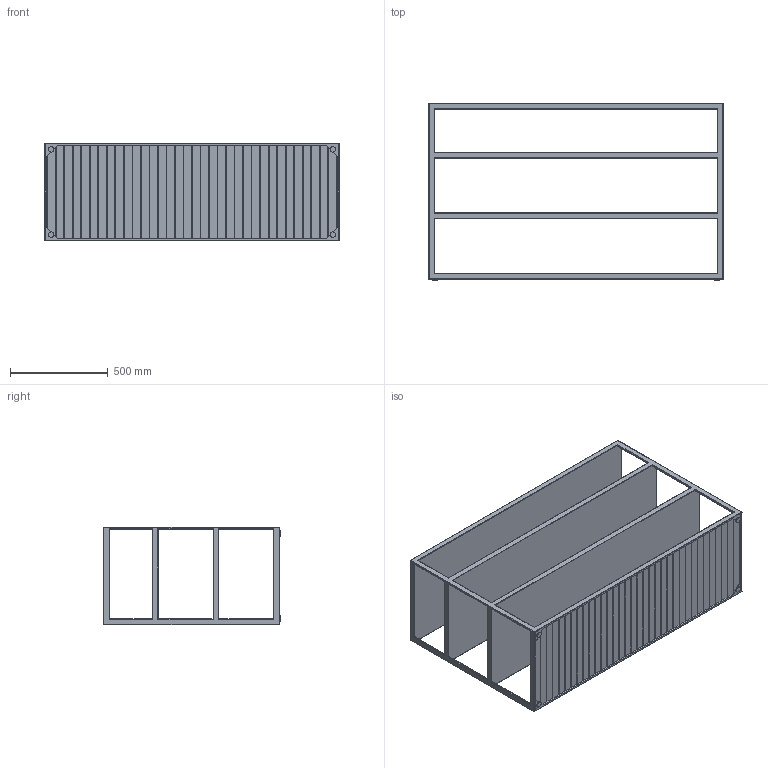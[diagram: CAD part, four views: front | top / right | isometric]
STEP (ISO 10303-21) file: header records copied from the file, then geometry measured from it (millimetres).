
FILE_DESCRIPTION(/* description */ (''),/* implementation_level */ '2;1');
FILE_NAME(/* name */ 'C:\INVENTOR\Workspace\# ARKITEKT FILER\Open Kitchen\OK Side Board 150\Open Kitchen Side Board 150 w Teak.stp',/* time_stamp */ '2020-05-05T08:46:45+02:00',/* author */ ('Röshults'),/* organization */ (''),/* preprocessor_version */ 'ST-DEVELOPER v17.2',/* originating_system */ 'Autodesk Inventor 2019',/* authorisation */ '');
FILE_SCHEMA (('AUTOMOTIVE_DESIGN { 1 0 10303 214 3 1 1 }'));
Length unit declared in the file: millimetre
Products named in the file (3): Open Kitchen Side Board 150 w Teak; Open Kitchen Side Board 150; Teak 150
Assembly tree (2 placements, depth 2):
  Open Kitchen Side Board 150 w Teak
    Open Kitchen Side Board 150
    Teak 150
Bounding box: 1505 x 905 x 500 mm (x, y, z)
Volume: 84124506.2 mm3; surface area: 7582320.8 mm2
Topology: 35 solids, 35 shells, 399 faces, 888 edges, 556 vertices
Faces by surface type: plane 287, cylinder 104, sphere 8
Full cylindrical faces by diameter (mm): 28 x4
Entity records: 10952 total; most frequent: CARTESIAN_POINT 1849, DIRECTION 1838, ORIENTED_EDGE 1776, EDGE_CURVE 888, LINE 748, VECTOR 748, VERTEX_POINT 556, AXIS2_PLACEMENT_3D 545
